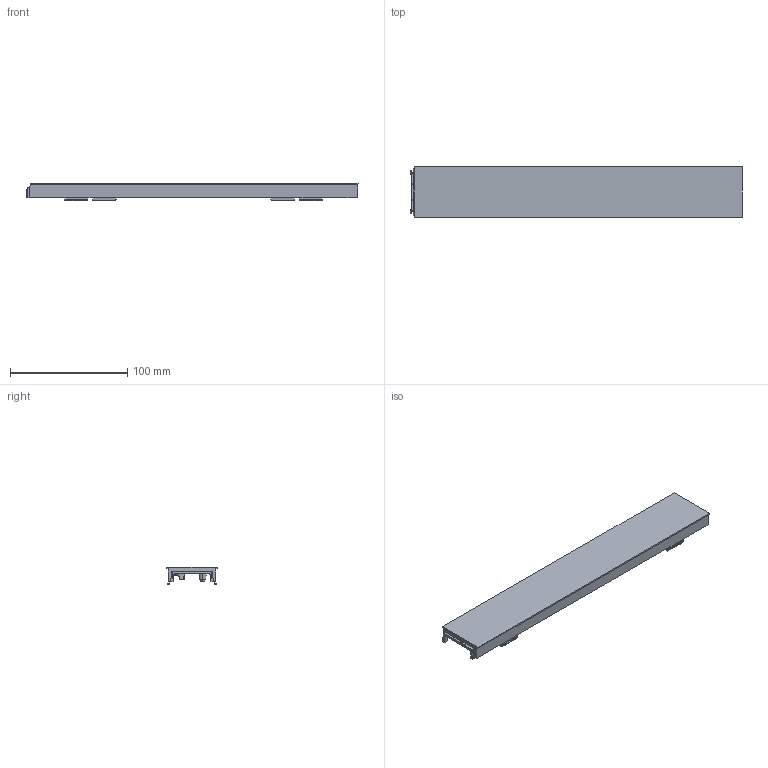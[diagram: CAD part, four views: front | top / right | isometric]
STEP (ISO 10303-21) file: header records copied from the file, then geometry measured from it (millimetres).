
FILE_DESCRIPTION((''),'2;1');
FILE_NAME('16208866_ACL-LENS-43X280-ASY','2020-09-29T16:12:16',('bernhard.fink'),(''),'CREO PARAMETRIC BY PTC INC, 2019164','CREO PARAMETRIC BY PTC INC, 2019164','');
FILE_SCHEMA(('CONFIG_CONTROL_DESIGN'));
Length unit declared in the file: millimetre
Products named in the file (1): 16208866_ACL-LENS-43X280-ASY
Bounding box: 283.29 x 43 x 15.2 mm (x, y, z)
Volume: 55358.3 mm3; surface area: 44161.1 mm2
Topology: 1 solids, 3 shells, 523 faces, 1606 edges, 1017 vertices
Faces by surface type: plane 265, cylinder 115, bspline 69, torus 30, sphere 28, cone 16
Entity records: 22439 total; most frequent: CARTESIAN_POINT 9252, ORIENTED_EDGE 3156, DIRECTION 2317, EDGE_CURVE 1578, VERTEX_POINT 1017, AXIS2_PLACEMENT_3D 869, B_SPLINE_CURVE_WITH_KNOTS 584, VECTOR 579
